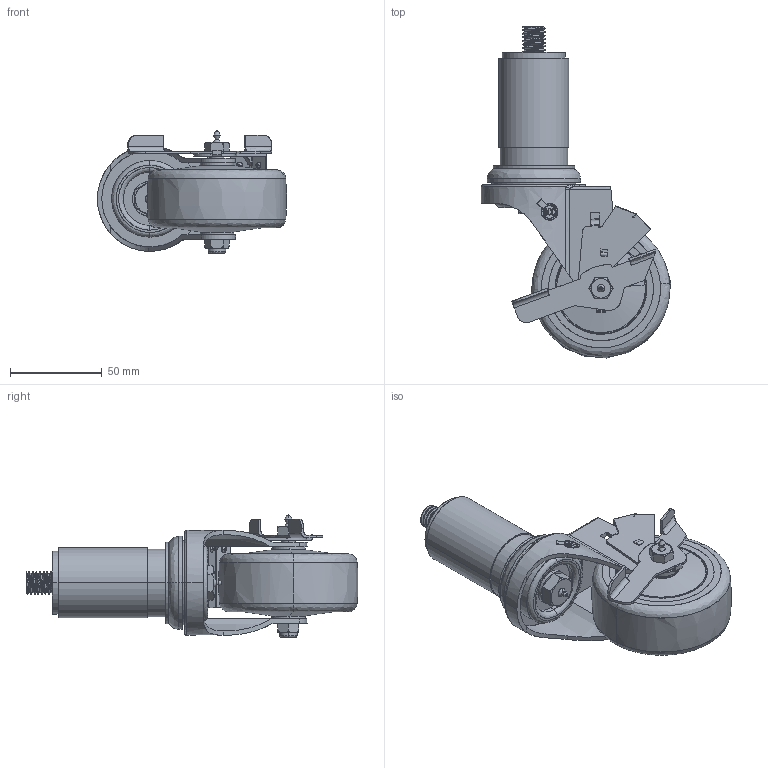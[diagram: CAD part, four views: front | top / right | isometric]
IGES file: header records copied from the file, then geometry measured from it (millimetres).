
Start section: SolidWorks IGES file using analytic representation for surfaces
Global section: file name: \\192.168.10.26\Nimesh\Tyler Manz\Output\2024\2024-10-04\1.5'' Expanding Stem Caster - 3'' Non Marking Orange Polyurethane Wheel - Brake\SCC-EX20S314-PPUB-ORG-TLB-112 3D IGES.IGS; native system: SolidWorks 2016; preprocessor: SolidWorks 2016; author: kathan.gandhi; date: 241007.075403; units: inch
Bounding box: 103.01 x 180.79 x 66.73 mm (x, y, z)
Surface area: 74174.9 mm2 (no closed solid volume)
Topology: 0 solids, 0 shells, 483 faces, 8723 edges, 8711 vertices
Faces by surface type: bspline 284, revolution 199
